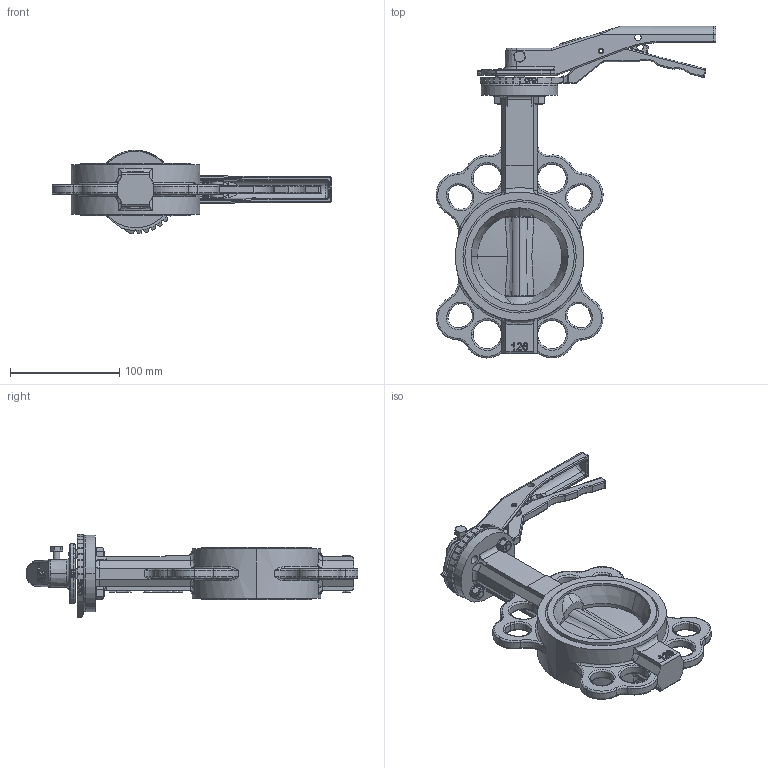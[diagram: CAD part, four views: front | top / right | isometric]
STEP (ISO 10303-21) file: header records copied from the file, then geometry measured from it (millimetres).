
FILE_DESCRIPTION (( 'STEP AP203' ), '1' );
FILE_NAME ('VPE-02 DN80.STEP', '2016-09-28T14:29:59', ( '' ), ( '' ), 'SwSTEP 2.0', 'SolidWorks 2014', '' );
FILE_SCHEMA (( 'CONFIG_CONTROL_DESIGN' ));
Length unit declared in the file: millimetre
Products named in the file (1): VPE-02 DN80
Bounding box: 256.57 x 304.39 x 76.45 mm (x, y, z)
Volume: 573249.1 mm3; surface area: 162769 mm2
Topology: 15 solids, 15 shells, 1516 faces, 3881 edges, 2392 vertices
Faces by surface type: plane 468, cylinder 452, bspline 383, cone 101, torus 70, sphere 42
Entity records: 70932 total; most frequent: CARTESIAN_POINT 37863, ORIENTED_EDGE 7648, DIRECTION 5859, EDGE_CURVE 3824, VERTEX_POINT 2386, AXIS2_PLACEMENT_3D 2156, EDGE_LOOP 1624, VECTOR 1547
